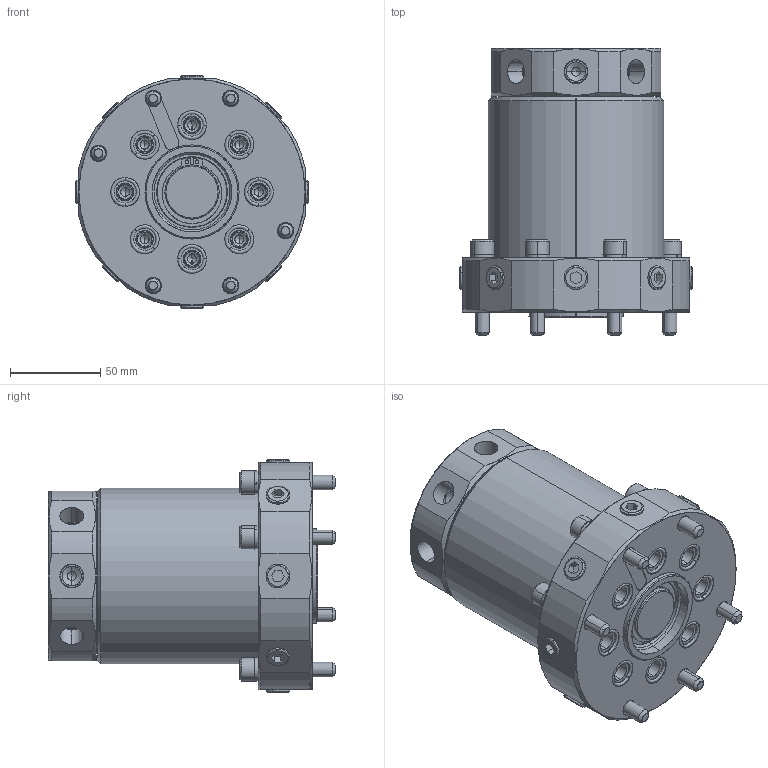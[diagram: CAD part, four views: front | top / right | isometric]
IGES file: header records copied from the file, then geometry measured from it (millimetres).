
Start section: SolidWorks IGES file using analytic representation for surfaces
Global section: file name: L:\電子カタログ-3D_CADデータ集\電子カタログ-3D_IGES\JRB_JRC\JRC0800-S-A.IGS; native system: SolidWorks 2010; preprocessor: SolidWorks 2010; author: D213; date: 110314.114209; units: millimetre
Bounding box: 128.6 x 159 x 128.6 mm (x, y, z)
Surface area: 160563.5 mm2 (no closed solid volume)
Topology: 0 solids, 0 shells, 887 faces, 11582 edges, 11506 vertices
Faces by surface type: revolution 594, bspline 293
